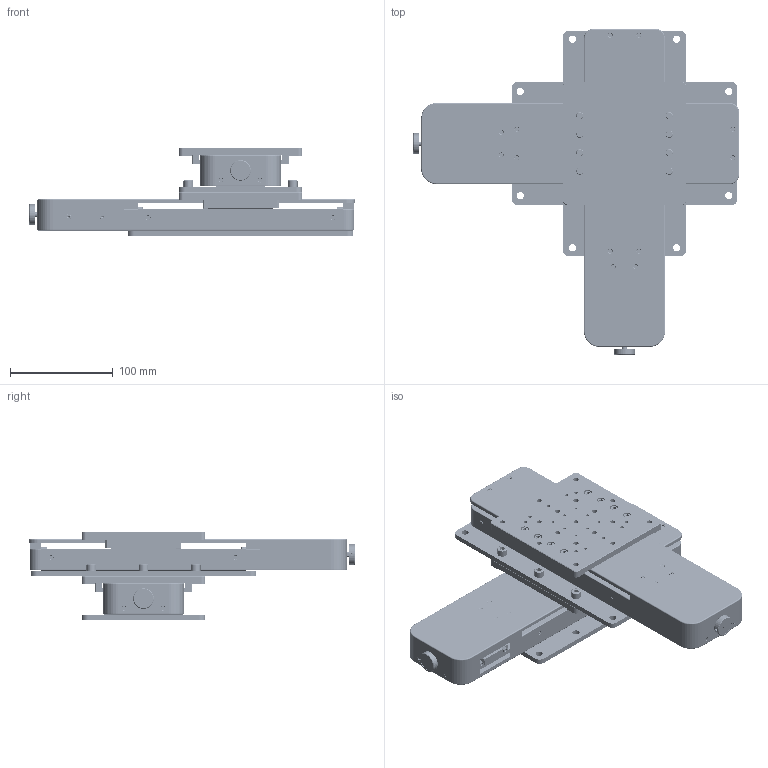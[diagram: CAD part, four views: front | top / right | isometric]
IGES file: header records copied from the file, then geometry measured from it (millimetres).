
Global section: file name: No Iges File Name specified; native system: AutoDesk Inventor R12.0; preprocessor: AutoDesk Inventor Iges Exporter R12.0; date: 20140324.144141; units: millimetre
Bounding box: 317.5 x 317.5 x 86 mm (x, y, z)
Volume: 1102505.6 mm3; surface area: 602501.5 mm2
Topology: 4 solids, 166 shells, 5376 faces, 13450 edges, 8520 vertices
Faces by surface type: plane 2794, bspline 1070, cylinder 780, cone 430, revolution 256, torus 44, sphere 2
Full cylindrical faces by diameter (mm): 12 x2
